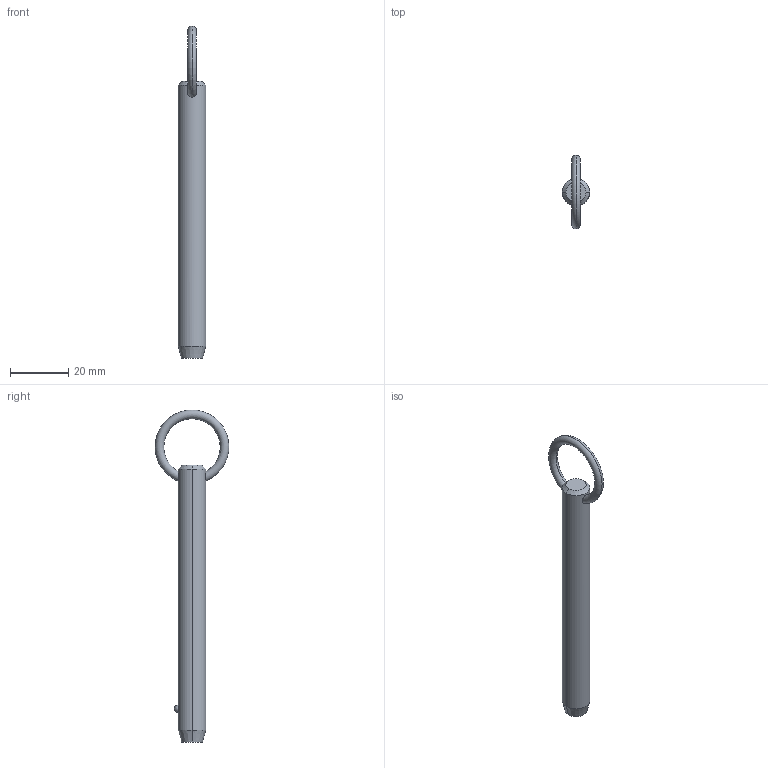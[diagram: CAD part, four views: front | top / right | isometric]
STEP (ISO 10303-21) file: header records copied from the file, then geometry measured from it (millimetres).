
FILE_DESCRIPTION (( 'STEP AP203' ), '1' );
FILE_NAME ('P1250.037-300.step', '2019-07-29T20:03:48', ( '' ), ( '' ), 'SwSTEP 2.0', 'SolidWorks 2017', '' );
FILE_SCHEMA (( 'CONFIG_CONTROL_DESIGN' ));
Length unit declared in the file: millimetre
Products named in the file (1): P1250.037-300
Bounding box: 9.52 x 25.39 x 114.3 mm (x, y, z)
Volume: 7131.1 mm3; surface area: 3490.9 mm2
Topology: 1 solids, 1 shells, 12 faces, 28 edges, 17 vertices
Faces by surface type: cone 4, torus 2, sphere 2, cylinder 2, plane 2
Entity records: 523 total; most frequent: CARTESIAN_POINT 190, DIRECTION 56, ORIENTED_EDGE 48, AXIS2_PLACEMENT_3D 25, EDGE_CURVE 24, VERTEX_POINT 15, EDGE_LOOP 15, ADVANCED_FACE 12
